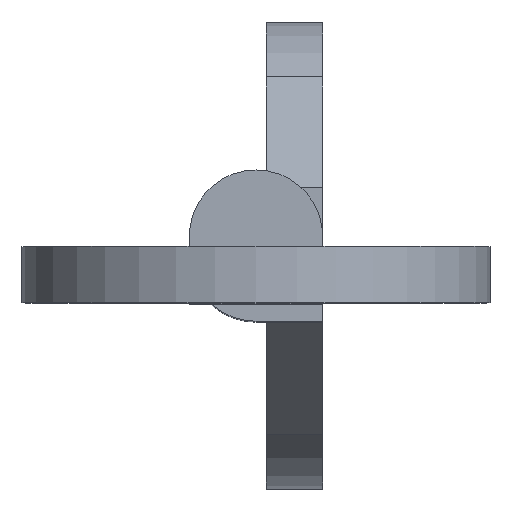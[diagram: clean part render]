
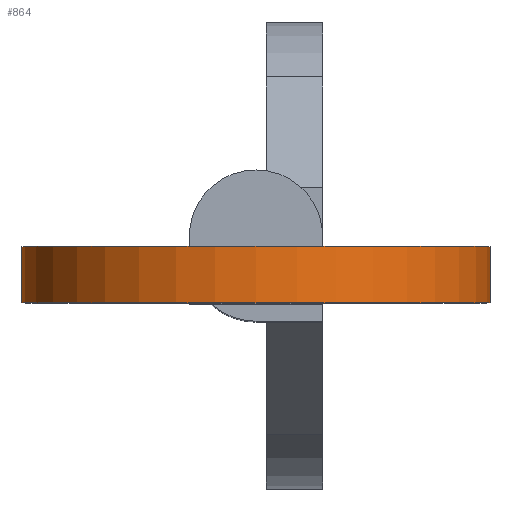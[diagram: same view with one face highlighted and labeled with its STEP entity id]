
A CAD part, top view. The second image highlights one B-rep face of the part: STEP entity #864.
In plain terms, the highlighted cylindrical face has radius 4.19 mm (diameter 8.38 mm), a partial arc.
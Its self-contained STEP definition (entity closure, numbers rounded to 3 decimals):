
#16 = DIRECTION ( 'NONE',  ( 0., -1., 0. ) ) ;
#57 = ORIENTED_EDGE ( 'NONE', *, *, #739, .F. ) ;
#67 = CIRCLE ( 'NONE', #703, 4.19 ) ;
#89 = FACE_OUTER_BOUND ( 'NONE', #278, .T. ) ;
#111 = EDGE_CURVE ( 'NONE', #239, #806, #429, .T. ) ;
#119 = VERTEX_POINT ( 'NONE', #253 ) ;
#147 = CARTESIAN_POINT ( 'NONE',  ( 0., -0.185, 101.6 ) ) ;
#187 = ORIENTED_EDGE ( 'NONE', *, *, #834, .F. ) ;
#216 = CYLINDRICAL_SURFACE ( 'NONE', #776, 4.19 ) ;
#221 = LINE ( 'NONE', #493, #490 ) ;
#239 = VERTEX_POINT ( 'NONE', #685 ) ;
#253 = CARTESIAN_POINT ( 'NONE',  ( 3.202, -1.195, 98.897 ) ) ;
#262 = LINE ( 'NONE', #336, #422 ) ;
#264 = EDGE_CURVE ( 'NONE', #806, #594, #221, .T. ) ;
#275 = DIRECTION ( 'NONE',  ( 0., 0., -1. ) ) ;
#277 = DIRECTION ( 'NONE',  ( 0., -1., 0. ) ) ;
#278 = EDGE_LOOP ( 'NONE', ( #187, #57, #599, #786 ) ) ;
#333 = DIRECTION ( 'NONE',  ( 0., -1., 0. ) ) ;
#336 = CARTESIAN_POINT ( 'NONE',  ( 3.202, -0.185, 98.897 ) ) ;
#343 = AXIS2_PLACEMENT_3D ( 'NONE', #484, #675, #275 ) ;
#422 = VECTOR ( 'NONE', #669, 1000. ) ;
#429 = CIRCLE ( 'NONE', #343, 4.19 ) ;
#484 = CARTESIAN_POINT ( 'NONE',  ( 0., -0.185, 101.6 ) ) ;
#490 = VECTOR ( 'NONE', #277, 1000. ) ;
#493 = CARTESIAN_POINT ( 'NONE',  ( -3.202, -0.185, 98.897 ) ) ;
#594 = VERTEX_POINT ( 'NONE', #841 ) ;
#599 = ORIENTED_EDGE ( 'NONE', *, *, #111, .T. ) ;
#604 = DIRECTION ( 'NONE',  ( 0., 0., -1. ) ) ;
#669 = DIRECTION ( 'NONE',  ( 0., -1., 0. ) ) ;
#675 = DIRECTION ( 'NONE',  ( 0., -1., 0. ) ) ;
#685 = CARTESIAN_POINT ( 'NONE',  ( 3.202, -0.185, 98.897 ) ) ;
#703 = AXIS2_PLACEMENT_3D ( 'NONE', #865, #333, #604 ) ;
#732 = CARTESIAN_POINT ( 'NONE',  ( -3.202, -0.185, 98.897 ) ) ;
#739 = EDGE_CURVE ( 'NONE', #239, #119, #262, .T. ) ;
#767 = DIRECTION ( 'NONE',  ( 0., 0., -1. ) ) ;
#776 = AXIS2_PLACEMENT_3D ( 'NONE', #147, #16, #767 ) ;
#786 = ORIENTED_EDGE ( 'NONE', *, *, #264, .T. ) ;
#806 = VERTEX_POINT ( 'NONE', #732 ) ;
#834 = EDGE_CURVE ( 'NONE', #119, #594, #67, .T. ) ;
#841 = CARTESIAN_POINT ( 'NONE',  ( -3.202, -1.195, 98.897 ) ) ;
#864 = ADVANCED_FACE ( 'NONE', ( #89 ), #216, .T. ) ;
#865 = CARTESIAN_POINT ( 'NONE',  ( 0., -1.195, 101.6 ) ) ;
